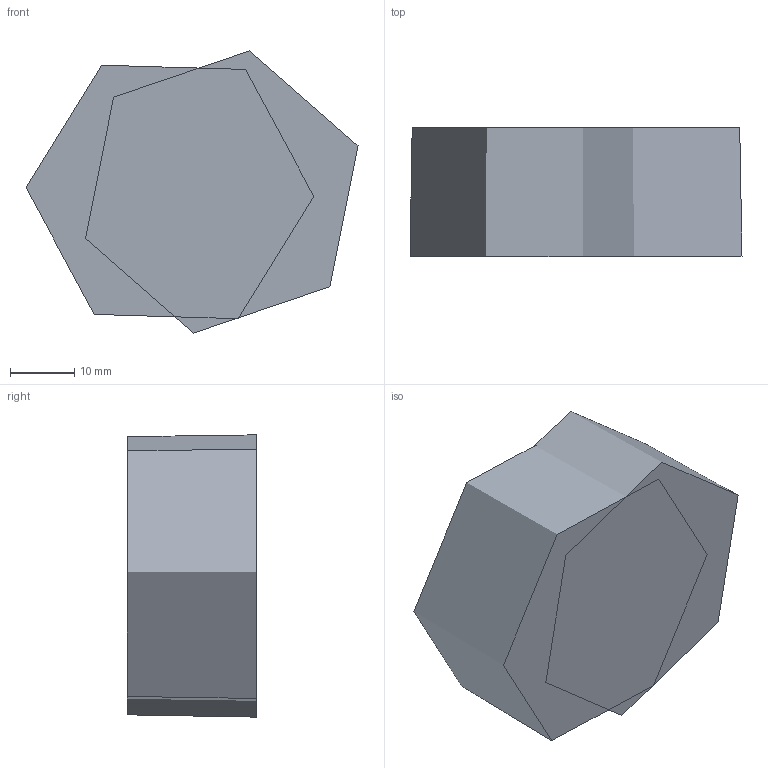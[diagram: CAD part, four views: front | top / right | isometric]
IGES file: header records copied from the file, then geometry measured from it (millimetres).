
Start section: Data from GEOPAK     Copyright (c) 2004 Mitutoyo Messgeraete GmbH
Global section: file name:  Output; native system:  By Mitutoyo Messgeraete GmbH; preprocessor: GAF      S/IGES 3.0; author: Noname; organization: Noname; date: 20040430.131933; units: millimetre
Bounding box: 51.67 x 20.21 x 43.93 mm (x, y, z)
Topology: 0 solids, 0 shells, 13 faces, 34 edges, 40 vertices
Faces by surface type: plane 5, revolution 4, extrusion 4
